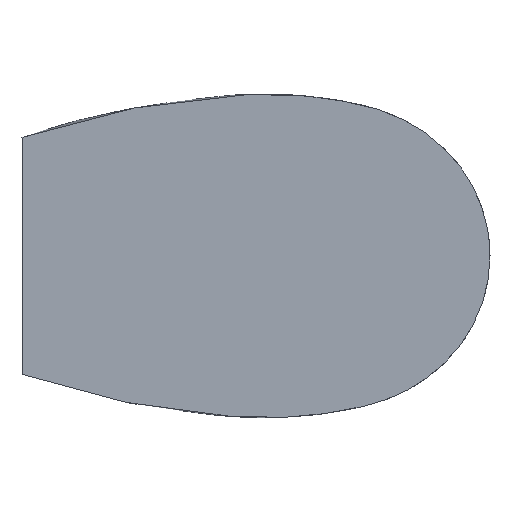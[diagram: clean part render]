
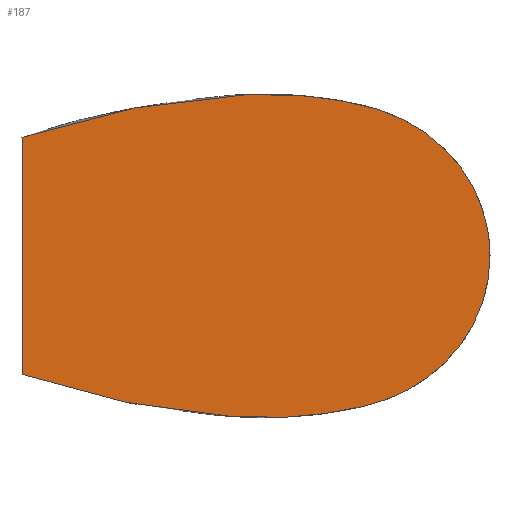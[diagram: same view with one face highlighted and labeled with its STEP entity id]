
A CAD part, left-side view. The second image highlights one B-rep face of the part: STEP entity #187.
In plain terms, the highlighted planar face has unit normal (-1, 0, 0).
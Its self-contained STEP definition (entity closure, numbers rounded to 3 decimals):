
#6=DIRECTION('',(0.,0.,1.));
#7=VECTOR('',#6,1.801);
#8=CARTESIAN_POINT('',(-9.,-0.3,-0.9));
#9=LINE('',#8,#7);
#10=CARTESIAN_POINT('',(-9.,-0.3,0.9));
#11=CARTESIAN_POINT('',(-9.,-0.443,0.95));
#12=CARTESIAN_POINT('',(-9.,-0.731,1.038));
#13=CARTESIAN_POINT('',(-9.,-1.099,1.118));
#14=CARTESIAN_POINT('',(-9.,-1.36,1.157));
#15=CARTESIAN_POINT('',(-9.,-1.511,1.176));
#16=CARTESIAN_POINT('',(-9.,-1.625,1.192));
#17=CARTESIAN_POINT('',(-9.,-1.741,1.207));
#18=CARTESIAN_POINT('',(-9.,-1.9,1.222));
#19=CARTESIAN_POINT('',(-9.,-2.115,1.232));
#20=CARTESIAN_POINT('',(-9.,-2.339,1.226));
#21=CARTESIAN_POINT('',(-9.,-2.532,1.208));
#22=CARTESIAN_POINT('',(-9.,-2.679,1.187));
#23=CARTESIAN_POINT('',(-9.,-2.826,1.159));
#24=CARTESIAN_POINT('',(-9.,-3.023,1.114));
#25=CARTESIAN_POINT('',(-9.,-3.213,1.035));
#26=CARTESIAN_POINT('',(-9.,-3.384,0.924));
#27=CARTESIAN_POINT('',(-9.,-3.503,0.825));
#28=CARTESIAN_POINT('',(-9.,-3.607,0.711));
#29=CARTESIAN_POINT('',(-9.,-3.695,0.585));
#30=CARTESIAN_POINT('',(-9.,-3.766,0.447));
#31=CARTESIAN_POINT('',(-9.,-3.817,0.302));
#32=CARTESIAN_POINT('',(-9.,-3.848,0.152));
#33=CARTESIAN_POINT('',(-9.,-3.855,0.051));
#34=CARTESIAN_POINT('',(-9.,-3.855,0.));
#36=CARTESIAN_POINT('',(-9.,-3.855,0.));
#37=CARTESIAN_POINT('',(-9.,-3.855,-0.051));
#38=CARTESIAN_POINT('',(-9.,-3.848,-0.152));
#39=CARTESIAN_POINT('',(-9.,-3.817,-0.302));
#40=CARTESIAN_POINT('',(-9.,-3.766,-0.447));
#41=CARTESIAN_POINT('',(-9.,-3.695,-0.585));
#42=CARTESIAN_POINT('',(-9.,-3.607,-0.711));
#43=CARTESIAN_POINT('',(-9.,-3.503,-0.825));
#44=CARTESIAN_POINT('',(-9.,-3.384,-0.924));
#45=CARTESIAN_POINT('',(-9.,-3.213,-1.035));
#46=CARTESIAN_POINT('',(-9.,-3.023,-1.114));
#47=CARTESIAN_POINT('',(-9.,-2.826,-1.159));
#48=CARTESIAN_POINT('',(-9.,-2.679,-1.187));
#49=CARTESIAN_POINT('',(-9.,-2.532,-1.208));
#50=CARTESIAN_POINT('',(-9.,-2.339,-1.226));
#51=CARTESIAN_POINT('',(-9.,-2.115,-1.232));
#52=CARTESIAN_POINT('',(-9.,-1.9,-1.222));
#53=CARTESIAN_POINT('',(-9.,-1.741,-1.207));
#54=CARTESIAN_POINT('',(-9.,-1.625,-1.192));
#55=CARTESIAN_POINT('',(-9.,-1.511,-1.176));
#56=CARTESIAN_POINT('',(-9.,-1.36,-1.157));
#57=CARTESIAN_POINT('',(-9.,-1.099,-1.118));
#58=CARTESIAN_POINT('',(-9.,-0.731,-1.038));
#59=CARTESIAN_POINT('',(-9.,-0.443,-0.95));
#60=CARTESIAN_POINT('',(-9.,-0.3,-0.9));
#152=CARTESIAN_POINT('',(-9.,-0.3,-0.9));
#153=CARTESIAN_POINT('',(-9.,-0.3,0.9));
#154=VERTEX_POINT('',#152);
#155=VERTEX_POINT('',#153);
#156=VERTEX_POINT('',#36);
#175=CARTESIAN_POINT('',(-9.,0.,0.));
#176=DIRECTION('',(1.,0.,0.));
#177=DIRECTION('',(0.,0.,-1.));
#178=AXIS2_PLACEMENT_3D('',#175,#176,#177);
#179=PLANE('',#178);
#180=ORIENTED_EDGE('',*,*,#162,.T.);
#182=ORIENTED_EDGE('',*,*,#181,.T.);
#184=ORIENTED_EDGE('',*,*,#183,.T.);
#185=EDGE_LOOP('',(#180,#182,#184));
#186=FACE_OUTER_BOUND('',#185,.F.);
#187=ADVANCED_FACE('',(#186),#179,.F.);
#35=B_SPLINE_CURVE_WITH_KNOTS('',3,(#10,#11,#12,#13,#14,#15,#16,#17,#18,#19,#20,
#21,#22,#23,#24,#25,#26,#27,#28,#29,#30,#31,#32,#33,#34),.UNSPECIFIED.,.F.,.F.,(
4,1,1,1,1,1,1,1,1,1,1,1,1,1,1,1,1,1,1,1,1,1,4),(0.,0.107,
0.212,0.266,0.293,0.32,
0.347,0.375,0.432,0.499,
0.534,0.569,0.604,0.639,
0.711,0.747,0.784,0.82,
0.856,0.892,0.928,0.964,1.),
.UNSPECIFIED.);
#61=B_SPLINE_CURVE_WITH_KNOTS('',3,(#36,#37,#38,#39,#40,#41,#42,#43,#44,#45,#46,
#47,#48,#49,#50,#51,#52,#53,#54,#55,#56,#57,#58,#59,#60),.UNSPECIFIED.,.F.,.F.,(
4,1,1,1,1,1,1,1,1,1,1,1,1,1,1,1,1,1,1,1,1,1,4),(0.,0.036,
0.072,0.108,0.144,0.18,
0.216,0.253,0.289,0.361,
0.396,0.431,0.466,0.501,
0.568,0.625,0.653,0.68,
0.707,0.734,0.788,0.893,1.),
.UNSPECIFIED.);
#162=EDGE_CURVE('',#154,#155,#9,.T.);
#181=EDGE_CURVE('',#155,#156,#35,.T.);
#183=EDGE_CURVE('',#156,#154,#61,.T.);
